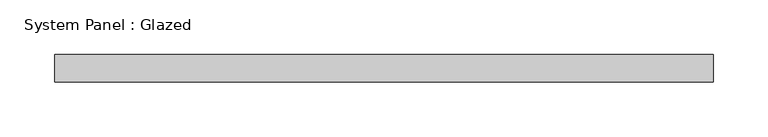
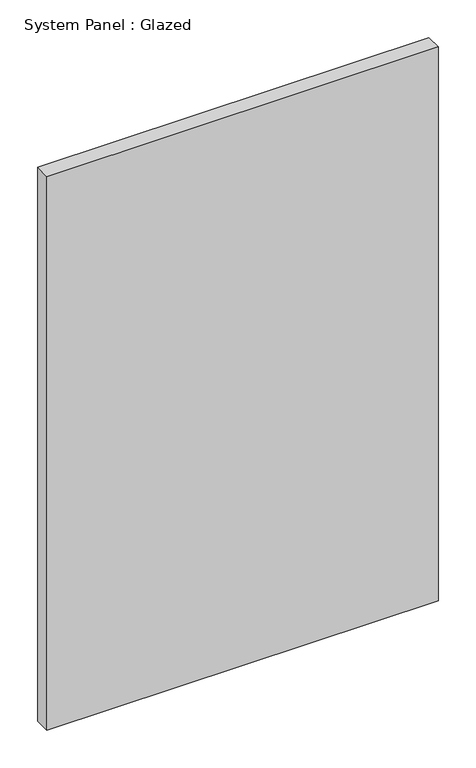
"""IFC4 building model written with IfcOpenShell, lengths in millimetres: plate geometry, System Panel : Glazed."""

import ifcopenshell
import ifcopenshell.guid

model = None  # the IFC model being written
_history = None  # IfcOwnerHistory: only IFC2X3 demands one
_inside = {}  # id of a spatial element -> (the spatial element, [elements in it])
_under = {}  # id of a project, library or spatial element -> (it, [spatial elements below it])
_declared = {}  # id of a project -> (the project, [libraries it declares])
_typed = {}  # id of a type object -> (the type object, [elements of that type])
_made_of = {}  # id of a material, layer set ... -> (it, [elements and type objects made of it])


def new_model(schema):
    """Start an empty IFC model of exactly this schema.

    Asked for "IFC4X3", IfcOpenShell would pick the latest addendum, in which some entities
    have other attributes; the version numbers below select the first issue.
    IFC2X3 requires an IfcOwnerHistory on every rooted entity: one is made here for all.
    """
    global model, _history
    if schema == "IFC4X3":
        model = ifcopenshell.file(schema_version=(4, 3, 0, 0))
    else:
        model = ifcopenshell.file(schema=schema)
    _inside.clear()
    _under.clear()
    _declared.clear()
    _typed.clear()
    _made_of.clear()
    _history = None
    if model.schema == "IFC2X3":
        org = make("IfcOrganization", Name="unknown")
        user = make(
            "IfcPersonAndOrganization",
            ThePerson=make("IfcPerson", FamilyName="unknown"),
            TheOrganization=org,
        )
        app = make(
            "IfcApplication",
            ApplicationDeveloper=org,
            Version="unknown",
            ApplicationFullName="unknown",
            ApplicationIdentifier="unknown",
        )
        _history = make(
            "IfcOwnerHistory",
            OwningUser=user,
            OwningApplication=app,
            ChangeAction="ADDED",
            CreationDate=0,
        )
    return model


def make(cls, **values):
    """One entity of the class cls with the attributes given. An attribute that is None is left unset."""
    return model.create_entity(
        cls, **{name: value for name, value in values.items() if value is not None}
    )


def rooted(cls, **values):
    """An entity with a GlobalId (a new one), such as an element, a storey or a relation."""
    return make(cls, GlobalId=ifcopenshell.guid.new(), OwnerHistory=_history, **values)


def si_unit(unit_type, name, prefix=None):
    """IfcSIUnit, for example si_unit("LENGTHUNIT", "METRE", prefix="MILLI")."""
    return make("IfcSIUnit", UnitType=unit_type, Prefix=prefix, Name=name)


def assignment(units):
    """IfcUnitAssignment: the units of a project."""
    return None if units is None else make("IfcUnitAssignment", Units=units)


def point(xyz):
    """IfcCartesianPoint."""
    return None if xyz is None else make("IfcCartesianPoint", Coordinates=xyz)


def direction(xyz):
    """IfcDirection."""
    return None if xyz is None else make("IfcDirection", DirectionRatios=xyz)


def frame(location, z_axis=None, x_axis=None):
    """IfcAxis2Placement3D, a coordinate frame: its origin and axes. An axis left out is left unset."""
    return make(
        "IfcAxis2Placement3D",
        Location=point(location),
        Axis=direction(z_axis),
        RefDirection=direction(x_axis),
    )


def origin():
    """The frame at (0, 0, 0) with its axes left unset."""
    return frame((0.0, 0.0, 0.0))


def origin_with_axes():
    """The frame at (0, 0, 0) with the z axis (0, 0, 1) and the x axis (1, 0, 0) written out."""
    return frame((0.0, 0.0, 0.0), z_axis=(0.0, 0.0, 1.0), x_axis=(1.0, 0.0, 0.0))


def place(relative_to, where):
    """IfcLocalPlacement: puts the frame where relative to a parent placement (None: the world)."""
    return make(
        "IfcLocalPlacement", PlacementRelTo=relative_to, RelativePlacement=where
    )


def context(
    kind, dimensions, precision=None, world=None, true_north=None, identifier=None
):
    """IfcGeometricRepresentationContext, for example the 3D "Model" context."""
    return make(
        "IfcGeometricRepresentationContext",
        ContextIdentifier=identifier,
        ContextType=kind,
        CoordinateSpaceDimension=dimensions,
        Precision=precision,
        WorldCoordinateSystem=world,
        TrueNorth=true_north,
    )


def project(units=None, contexts=None):
    """IfcProject with its units and contexts."""
    return rooted(
        "IfcProject",
        Name="project",
        RepresentationContexts=contexts,
        UnitsInContext=assignment(units),
    )


def spatial(cls, under=None, at=None, **own):
    """A site, building, storey or space (cls), placed at a placement, below another one or the project."""
    s = rooted(cls, ObjectPlacement=at, **own)
    if under is not None:
        _under.setdefault(under.id(), (under, []))[1].append(s)
    return s


def polyline(points):
    """IfcPolyline through the points."""
    return make("IfcPolyline", Points=[point(p) for p in points])


def outline(outer, holes=None, kind="AREA"):
    """IfcArbitraryClosedProfileDef: a profile drawn as a closed curve; with holes, ...WithVoids."""
    if holes is None:
        return make("IfcArbitraryClosedProfileDef", ProfileType=kind, OuterCurve=outer)
    return make(
        "IfcArbitraryProfileDefWithVoids",
        ProfileType=kind,
        OuterCurve=outer,
        InnerCurves=holes,
    )


def extrude(swept, where, along, depth):
    """IfcExtrudedAreaSolid: the profile swept, set in the frame where, extruded along a direction by depth."""
    return make(
        "IfcExtrudedAreaSolid",
        SweptArea=swept,
        Position=where,
        ExtrudedDirection=direction(along),
        Depth=depth,
    )


def shape(context_of_items, identifier, shape_type, items):
    """IfcShapeRepresentation: the items that make up one representation, for example the "Body"."""
    return make(
        "IfcShapeRepresentation",
        ContextOfItems=context_of_items,
        RepresentationIdentifier=identifier,
        RepresentationType=shape_type,
        Items=items,
    )


def source(mapping_origin, context_of_items, identifier, shape_type, items):
    """IfcRepresentationMap: a shape defined once, which mapped items show again and again."""
    return make(
        "IfcRepresentationMap",
        MappingOrigin=mapping_origin,
        MappedRepresentation=shape(context_of_items, identifier, shape_type, items),
    )


def transform(
    local_origin,
    x_axis=None,
    y_axis=None,
    z_axis=None,
    scale=None,
    scale2=None,
    scale3=None,
    uniform=True,
):
    """IfcCartesianTransformationOperator3D, or its non-uniform kind. x_axis, y_axis, z_axis: its Axis1, 2, 3."""
    if uniform:
        return make(
            "IfcCartesianTransformationOperator3D",
            Axis1=direction(x_axis),
            Axis2=direction(y_axis),
            LocalOrigin=point(local_origin),
            Scale=scale,
            Axis3=direction(z_axis),
        )
    return make(
        "IfcCartesianTransformationOperator3DnonUniform",
        Axis1=direction(x_axis),
        Axis2=direction(y_axis),
        LocalOrigin=point(local_origin),
        Scale=scale,
        Axis3=direction(z_axis),
        Scale2=scale2,
        Scale3=scale3,
    )


def mapped(mapping_source, mapping_target):
    """IfcMappedItem: shows the shape of a source again, moved by a transform."""
    return make(
        "IfcMappedItem", MappingSource=mapping_source, MappingTarget=mapping_target
    )


def made_of(thing, what):
    """Note that an element or type object is made of a material, layer set ...; save() writes the relation."""
    if what is not None:
        _made_of.setdefault(what.id(), (what, []))[1].append(thing)
    return thing


def element(
    cls,
    number,
    at=None,
    inside=None,
    cuts=None,
    type_object=None,
    material=None,
    context=None,
    identifier="Body",
    shape_type=None,
    held_by="IfcProductDefinitionShape",
    body=None,
    shapes=None,
    **own,
):
    """One element of the class cls, such as IfcWall. Its Tag is "e" and its number.

    at: its placement. inside: the storey or other place that contains it. cuts: it is an
    opening in that element (IfcRelVoidsElement). A single representation is given by context,
    identifier, shape_type and body (its items); several are given by shapes. held_by: the class
    of the entity that holds the representations. save() writes the other relations.
    """
    e = rooted(cls, Tag="e%d" % number, ObjectPlacement=at, **own)
    if body is not None:
        shapes = [shape(context, identifier, shape_type, body)]
    if shapes is not None:
        e.Representation = make(held_by, Representations=shapes)
    if inside is not None:
        _inside.setdefault(inside.id(), (inside, []))[1].append(e)
    if cuts is not None:
        rooted(
            "IfcRelVoidsElement", RelatingBuildingElement=cuts, RelatedOpeningElement=e
        )
    if type_object is not None:
        _typed.setdefault(type_object.id(), (type_object, []))[1].append(e)
    return made_of(e, material)


def aggregate(whole, parts):
    """IfcRelAggregates: a whole, such as a stair, and the parts it consists of."""
    return rooted("IfcRelAggregates", RelatingObject=whole, RelatedObjects=parts)


def save(model, path):
    """Write the relations noted so far, then the file.

    IfcRelAggregates (storeys below a building ...), IfcRelContainedInSpatialStructure (elements
    in a storey), IfcRelDefinesByType, IfcRelAssociatesMaterial and IfcRelDeclares: one each for
    every whole, place, type object, material and project.
    """
    for whole, parts in _under.values():
        aggregate(whole, parts)
    for where, things in _inside.values():
        rooted(
            "IfcRelContainedInSpatialStructure",
            RelatedElements=things,
            RelatingStructure=where,
        )
    for kind, things in _typed.values():
        rooted("IfcRelDefinesByType", RelatedObjects=things, RelatingType=kind)
    for what, things in _made_of.values():
        rooted("IfcRelAssociatesMaterial", RelatedObjects=things, RelatingMaterial=what)
    for by, libraries in _declared.values():
        rooted("IfcRelDeclares", RelatingContext=by, RelatedDefinitions=libraries)
    model.write(path)


def system_panel_glazed_49c835b0(model_context):
    return source(origin(), model_context, "Body", "SweptSolid", [
        extrude(outline(polyline([(300.75, 24.5), (-300.75, 24.5), (-300.75, 49.5), (300.75, 49.5), (300.75, 24.5)])), origin_with_axes(), (0.0, 0.0, 1.0), 900.0),
    ])


if __name__ == "__main__":
    model = new_model("IFC4")
    model_context = context("Model", 3, world=origin())
    ifc_project = project(units=[si_unit("LENGTHUNIT", "METRE", prefix="MILLI")], contexts=[model_context])
    site = spatial("IfcSite", under=ifc_project)
    building = spatial("IfcBuilding", under=site)
    placement = place(None, origin())
    system_panel_glazed_shape = system_panel_glazed_49c835b0(model_context)
    element("IfcPlate", 1, ObjectType="System Panel : Glazed", at=placement, inside=building, context=model_context, shape_type="MappedRepresentation", body=[
        mapped(system_panel_glazed_shape, transform((0.0, 0.0, 0.0), x_axis=(1.0, 0.0, 0.0), y_axis=(0.0, 1.0, 0.0), z_axis=(0.0, 0.0, 1.0))),
    ])
    save(model, "model.ifc")
